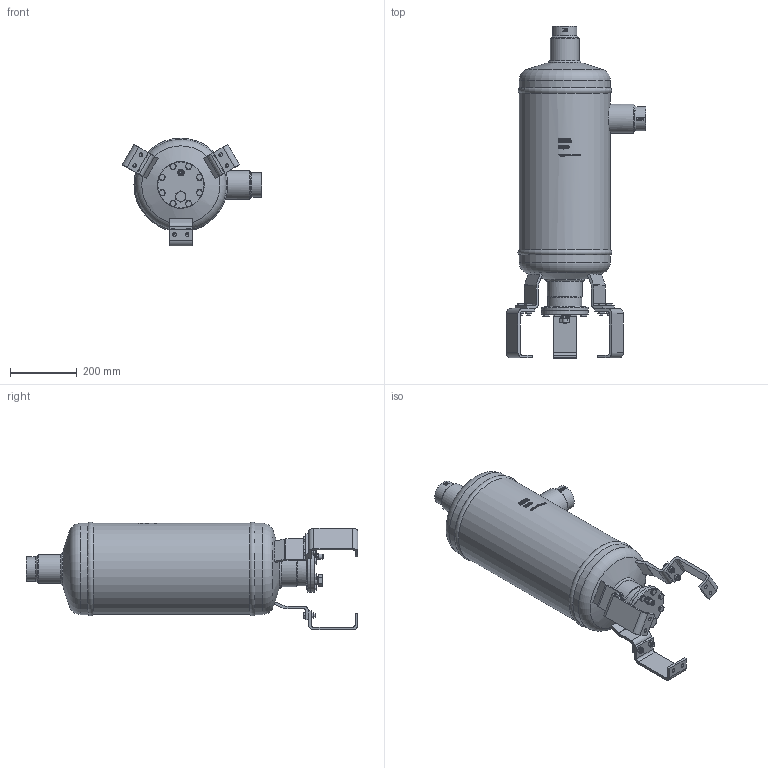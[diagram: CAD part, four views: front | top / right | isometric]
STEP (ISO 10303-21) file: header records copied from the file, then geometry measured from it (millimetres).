
FILE_DESCRIPTION(/* description */ (''),/* implementation_level */ '2;1');
FILE_NAME(/* name */ 'P:\OS\OS-80_67FX\OS-80_67FX.stp',/* time_stamp */ '2017-10-04T08:15:56+02:00',/* author */ ('neufeld'),/* organization */ (''),/* preprocessor_version */ 'ST-DEVELOPER v16.1',/* originating_system */ 'Autodesk Inventor 2016',/* authorisation */ '');
FILE_SCHEMA (('AUTOMOTIVE_DESIGN { 1 0 10303 214 3 1 1 }'));
Length unit declared in the file: millimetre
Products named in the file (2): OS-80_67FX; OS-80_67FX_1
Assembly tree (1 placements, depth 2):
  OS-80_67FX_1
    OS-80_67FX
Bounding box: 418.05 x 994.89 x 322.94 mm (x, y, z)
Volume: 39111374.3 mm3; surface area: 940900.7 mm2
Topology: 1 solids, 15 shells, 1592 faces, 4067 edges, 2662 vertices
Faces by surface type: plane 806, bspline 390, cylinder 218, cone 168, torus 8, sphere 2
Full cylindrical faces by diameter (mm): 7.2 x1, 9.188 x14, 10 x28, 10.3 x6, 10.5 x14, 11 x6, 13.5 x1, 15.4 x14, 15.7 x1, 19 x1, 22.5 x1, 25.2 x1, 67.3 x2, 72.5 x2, 80 x2, 87 x2, 102 x1, 106 x1, 135 x1, 140 x2, 273 x1, 273.2 x2
Entity records: 55124 total; most frequent: CARTESIAN_POINT 20068, ORIENTED_EDGE 7698, DIRECTION 6250, EDGE_CURVE 3849, VERTEX_POINT 2609, AXIS2_PLACEMENT_3D 2291, EDGE_LOOP 1952, LINE 1668
